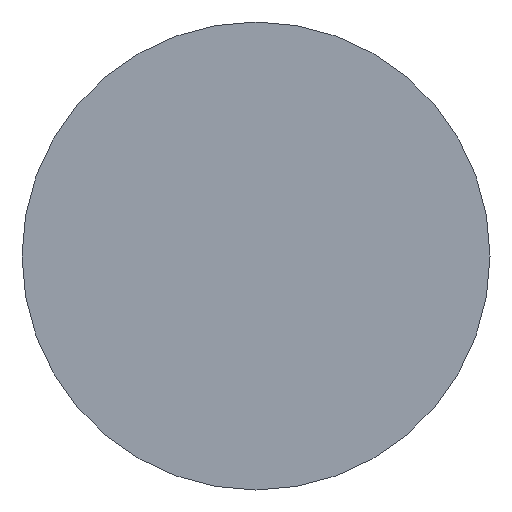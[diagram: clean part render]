
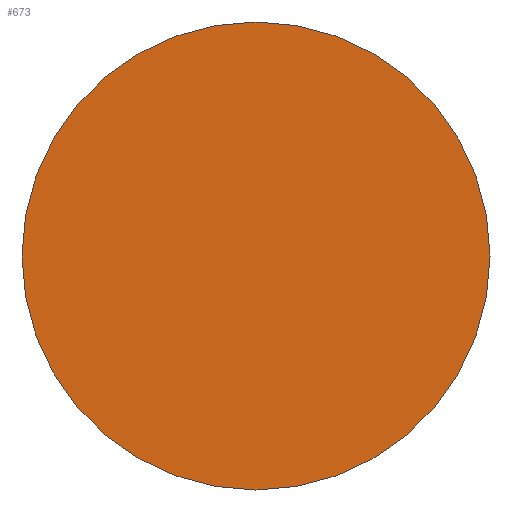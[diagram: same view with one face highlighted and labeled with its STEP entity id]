
A CAD part, left-side view. The second image highlights one B-rep face of the part: STEP entity #673.
In plain terms, the highlighted planar face has unit normal (-1, 0, 0).
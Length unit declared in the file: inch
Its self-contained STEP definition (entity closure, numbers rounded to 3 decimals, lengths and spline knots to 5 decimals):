
#2 = CARTESIAN_POINT ( 'NONE',  ( 0., 0., 0. ) ) ;
#137 = DIRECTION ( 'NONE',  ( 0., 0., 1. ) ) ;
#150 = PLANE ( 'NONE',  #621 ) ;
#208 = DIRECTION ( 'NONE',  ( -1., 0., 0. ) ) ;
#214 = DIRECTION ( 'NONE',  ( -1., 0., 0. ) ) ;
#231 = EDGE_LOOP ( 'NONE', ( #494, #608 ) ) ;
#266 = DIRECTION ( 'NONE',  ( 0., 0., 1. ) ) ;
#285 = CARTESIAN_POINT ( 'NONE',  ( 0., 0., 0. ) ) ;
#286 = VERTEX_POINT ( 'NONE', #466 ) ;
#312 = AXIS2_PLACEMENT_3D ( 'NONE', #2, #208, #137 ) ;
#410 = VERTEX_POINT ( 'NONE', #825 ) ;
#466 = CARTESIAN_POINT ( 'NONE',  ( 0., 0., -0.09365 ) ) ;
#494 = ORIENTED_EDGE ( 'NONE', *, *, #734, .T. ) ;
#550 = DIRECTION ( 'NONE',  ( 1., 0., 0. ) ) ;
#555 = FACE_OUTER_BOUND ( 'NONE', #231, .T. ) ;
#581 = CIRCLE ( 'NONE', #312, 0.09365 ) ;
#608 = ORIENTED_EDGE ( 'NONE', *, *, #733, .T. ) ;
#621 = AXIS2_PLACEMENT_3D ( 'NONE', #750, #550, #806 ) ;
#673 = ADVANCED_FACE ( 'NONE', ( #555 ), #150, .F. ) ;
#733 = EDGE_CURVE ( 'NONE', #286, #410, #581, .T. ) ;
#734 = EDGE_CURVE ( 'NONE', #410, #286, #799, .T. ) ;
#750 = CARTESIAN_POINT ( 'NONE',  ( 0., 0.09365, 0. ) ) ;
#799 = CIRCLE ( 'NONE', #813, 0.09365 ) ;
#806 = DIRECTION ( 'NONE',  ( 0., 0., -1. ) ) ;
#813 = AXIS2_PLACEMENT_3D ( 'NONE', #285, #214, #266 ) ;
#825 = CARTESIAN_POINT ( 'NONE',  ( 0., 0., 0.09365 ) ) ;
